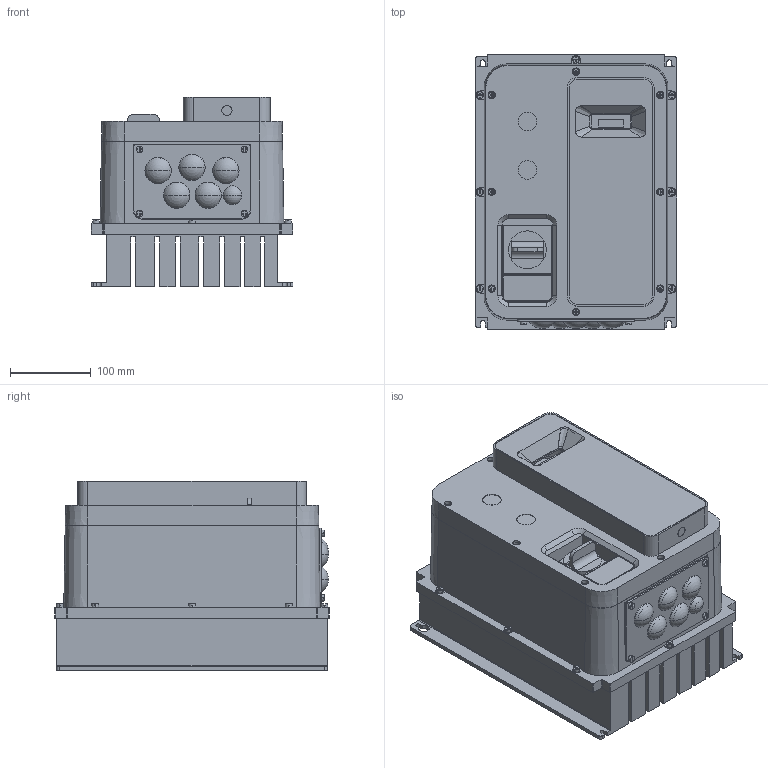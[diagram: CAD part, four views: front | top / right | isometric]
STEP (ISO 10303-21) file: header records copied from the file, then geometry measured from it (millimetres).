
FILE_DESCRIPTION((''),'2;1');
FILE_NAME('SIMPLIFIED_ASM','2020-11-19T11:53:09',('danae.lavaud'),(''),'CREO PARAMETRIC BY PTC INC, 2018260','CREO PARAMETRIC BY PTC INC, 2018260','');
FILE_SCHEMA(('CONFIG_CONTROL_DESIGN'));
Products named in the file (41): QGH7885001_2_6_1; RS3_POWER_PCB_S2C2_3_5_1; X3_4KW_OULP-948-B-7P_MIG17_2_7_; X3_4KW_OULP_948_B_7P_MIG17_ASM__ASM; RS3_POWER_PCBA_S2C2_ASM_3_ASM_4_ASM; AAV95575_1_7_1; AAV95576_ASM_2_ASM_5_ASM_1_ASM; RS3_FILTER_PCB_S2C2_3_6_1; X3_4KW_OULP-948-B-2P_MIG17_1_3_; X3_4KW_OULP_948_B_2P_MIG17_ASM__ASM; RS3_FILTER_PCBA_S2C2_ASM_2_ASM__ASM; QGH7009701_4_14_1; PHA3991001_2_6_1; ATV320_IPXX_FAN_06015KA_1_6_1_1; ATV320_IPXX_FAN_06015KA_1_6_2_1; ATV320_IPXX_FAN_06015KA_1_6_3_1; ATV320_IPXX_FAN_06015KA_1_6_ASM_ASM; QGH7009801_2_16_1; QGH7596201_2_8_1; QGH7010101_2_11_1; QGH7859601_2_8_AF0_1; QGH7859601_2_8_AF1_1; QGH7859601_2_8_AF2_1; QGH7859601_2_8_AF3_1; QGH7859601_2_8_AF4_1; ASM0003_ASM_1_ASM; PHA3017301_2_8_1; VARIO_BODY_VCD_7_4_1; IPXX_VARIO_VCD01_2_9_1; PRT0002_1_1_1_1_1_6_1; PRT0003_1_1_1_1_1_6_1; ASM0004_ASM_1_ASM_1_ASM_1_ASM_1_ASM; ASM0003_ASM_1_ASM_1_ASM_1_ASM_1_ASM; PRT0007_1_1_1_1_1_6_1; PRT0008_1_1_1_1_1_6_1; ASM0005_ASM_1_ASM_1_ASM_1_ASM_1_ASM; PRT0009_1_1_1_1_1_6_1; PRT0010_1_1_1_1_1_6_1; ATV320_CONTROL_BLOCK_ASM_1_ASM__ASM; S2C2_VARIO_ASM_2_ASM_1_ASM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
Assembly tree (40 placements, depth 6):
  SIMPLIFIED_ASM
    S2C2_VARIO_ASM_2_ASM_1_ASM
      QGH7885001_2_6_1
      RS3_POWER_PCBA_S2C2_ASM_3_ASM_4_ASM
        RS3_POWER_PCB_S2C2_3_5_1
        X3_4KW_OULP_948_B_7P_MIG17_ASM__ASM
          X3_4KW_OULP-948-B-7P_MIG17_2_7_
      AAV95576_ASM_2_ASM_5_ASM_1_ASM
        AAV95575_1_7_1
      RS3_FILTER_PCBA_S2C2_ASM_2_ASM__ASM
        RS3_FILTER_PCB_S2C2_3_6_1
        X3_4KW_OULP_948_B_2P_MIG17_ASM__ASM
          X3_4KW_OULP-948-B-2P_MIG17_1_3_
      QGH7009701_4_14_1
      PHA3991001_2_6_1
      ATV320_IPXX_FAN_06015KA_1_6_ASM_ASM
        ATV320_IPXX_FAN_06015KA_1_6_1_1
        ATV320_IPXX_FAN_06015KA_1_6_2_1
        ATV320_IPXX_FAN_06015KA_1_6_3_1
      QGH7009801_2_16_1
      QGH7596201_2_8_1
      QGH7010101_2_11_1
      ASM0003_ASM_1_ASM
        QGH7859601_2_8_AF0_1
        QGH7859601_2_8_AF1_1
        QGH7859601_2_8_AF2_1
        QGH7859601_2_8_AF3_1
        QGH7859601_2_8_AF4_1
      PHA3017301_2_8_1
      VARIO_BODY_VCD_7_4_1
      IPXX_VARIO_VCD01_2_9_1
      ATV320_CONTROL_BLOCK_ASM_1_ASM__ASM
        ASM0003_ASM_1_ASM_1_ASM_1_ASM_1_ASM
          ASM0004_ASM_1_ASM_1_ASM_1_ASM_1_ASM
            PRT0002_1_1_1_1_1_6_1
            PRT0003_1_1_1_1_1_6_1
        ASM0005_ASM_1_ASM_1_ASM_1_ASM_1_ASM
          PRT0007_1_1_1_1_1_6_1
          PRT0008_1_1_1_1_1_6_1
        PRT0009_1_1_1_1_1_6_1
        PRT0010_1_1_1_1_1_6_1
Bounding box: 250 x 340 x 235 mm (x, y, z)
Volume: 6754148 mm3; surface area: 1549145.6 mm2
Topology: 28 solids, 49 shells, 3468 faces, 9465 edges, 6241 vertices
Faces by surface type: plane 2445, cylinder 727, cone 152, torus 44, bspline 38, sphere 38, extrusion 20, revolution 4
Entity records: 114973 total; most frequent: CARTESIAN_POINT 25110, ORIENTED_EDGE 18794, DIRECTION 18252, EDGE_CURVE 9421, VECTOR 6624, LINE 6604, VERTEX_POINT 6241, AXIS2_PLACEMENT_3D 5812
